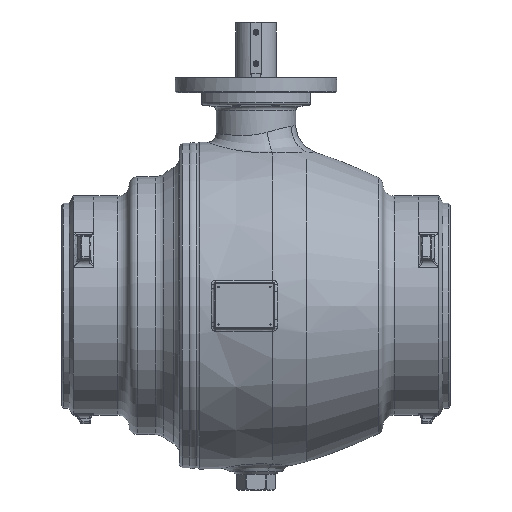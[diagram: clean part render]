
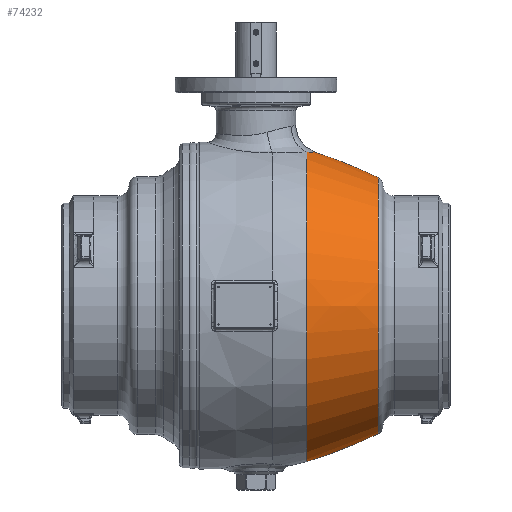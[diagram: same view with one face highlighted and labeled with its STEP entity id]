
A CAD part, front view. The second image highlights one B-rep face of the part: STEP entity #74232.
In plain terms, the highlighted free-form (B-spline) face has degree [3, 3] with [7, 4] control points.
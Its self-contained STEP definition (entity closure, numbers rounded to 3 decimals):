
#17498=CARTESIAN_POINT('',(176.658,-96.05,
531.703));
#17499=CARTESIAN_POINT('',(177.105,-95.395,
531.683));
#17500=CARTESIAN_POINT('',(177.989,-94.081,
531.643));
#17501=CARTESIAN_POINT('',(179.285,-92.099,
531.586));
#17502=CARTESIAN_POINT('',(180.552,-90.105,
531.531));
#17503=CARTESIAN_POINT('',(181.791,-88.101,
531.479));
#17504=CARTESIAN_POINT('',(183.,-86.085,
531.43));
#17505=CARTESIAN_POINT('',(184.18,-84.06,
531.383));
#17506=CARTESIAN_POINT('',(185.33,-82.024,
531.339));
#17507=CARTESIAN_POINT('',(186.452,-79.979,
531.297));
#17508=CARTESIAN_POINT('',(187.544,-77.924,
531.257));
#17509=CARTESIAN_POINT('',(188.606,-75.86,
531.219));
#17510=CARTESIAN_POINT('',(189.639,-73.787,
531.183));
#17511=CARTESIAN_POINT('',(190.643,-71.705,
531.15));
#17512=CARTESIAN_POINT('',(191.617,-69.615,
531.118));
#17513=CARTESIAN_POINT('',(192.562,-67.517,
531.087));
#17514=CARTESIAN_POINT('',(193.477,-65.411,
531.059));
#17515=CARTESIAN_POINT('',(194.362,-63.298,
531.032));
#17516=CARTESIAN_POINT('',(195.218,-61.177,
531.007));
#17517=CARTESIAN_POINT('',(196.044,-59.049,
530.983));
#17518=CARTESIAN_POINT('',(196.84,-56.915,
530.961));
#17519=CARTESIAN_POINT('',(197.607,-54.774,
530.94));
#17520=CARTESIAN_POINT('',(198.343,-52.627,
530.92));
#17521=CARTESIAN_POINT('',(199.05,-50.474,
530.901));
#17522=CARTESIAN_POINT('',(199.727,-48.315,
530.884));
#17523=CARTESIAN_POINT('',(200.374,-46.152,
530.868));
#17524=CARTESIAN_POINT('',(200.991,-43.983,
530.853));
#17525=CARTESIAN_POINT('',(201.578,-41.809,
530.839));
#17526=CARTESIAN_POINT('',(202.135,-39.632,
530.825));
#17527=CARTESIAN_POINT('',(202.662,-37.449,
530.813));
#17528=CARTESIAN_POINT('',(203.159,-35.263,
530.802));
#17529=CARTESIAN_POINT('',(203.626,-33.074,
530.792));
#17530=CARTESIAN_POINT('',(204.062,-30.881,
530.782));
#17531=CARTESIAN_POINT('',(204.469,-28.685,
530.773));
#17532=CARTESIAN_POINT('',(204.845,-26.487,
530.765));
#17533=CARTESIAN_POINT('',(205.192,-24.286,
530.758));
#17534=CARTESIAN_POINT('',(205.508,-22.083,
530.751));
#17535=CARTESIAN_POINT('',(205.794,-19.878,
530.745));
#17536=CARTESIAN_POINT('',(206.05,-17.671,
530.74));
#17537=CARTESIAN_POINT('',(206.276,-15.464,
530.735));
#17538=CARTESIAN_POINT('',(206.472,-13.255,
530.732));
#17539=CARTESIAN_POINT('',(206.637,-11.046,
530.728));
#17540=CARTESIAN_POINT('',(206.773,-8.836,
530.725));
#17541=CARTESIAN_POINT('',(206.878,-6.626,
530.723));
#17542=CARTESIAN_POINT('',(206.953,-4.417,
530.722));
#17543=CARTESIAN_POINT('',(206.998,-2.208,
530.721));
#17544=CARTESIAN_POINT('',(207.008,-0.736,
530.721));
#17545=CARTESIAN_POINT('',(207.008,0.,530.721));
#17547=CARTESIAN_POINT('',(-335.347,0.,-1133.116));
#17548=DIRECTION('',(0.,-1.,0.));
#17549=DIRECTION('',(0.433,0.,0.901));
#17550=AXIS2_PLACEMENT_3D('',#17547,#17548,#17549);
#17552=CARTESIAN_POINT('',(423.,0.,0.));
#17553=DIRECTION('',(1.,0.,0.));
#17554=DIRECTION('',(0.,0.,1.));
#17555=AXIS2_PLACEMENT_3D('',#17552,#17553,#17554);
#17557=CARTESIAN_POINT('',(-335.347,0.,
1133.116));
#17558=DIRECTION('',(0.,1.,0.));
#17559=DIRECTION('',(0.433,0.,-0.901));
#17560=AXIS2_PLACEMENT_3D('',#17557,#17558,#17559);
#17815=CARTESIAN_POINT('',(176.658,-96.05,
531.703));
#17817=CARTESIAN_POINT('',(176.658,0.,0.));
#17818=DIRECTION('',(1.,0.,0.));
#17819=DIRECTION('',(0.,-0.178,0.984));
#17820=AXIS2_PLACEMENT_3D('',#17817,#17818,#17819);
#42227=CARTESIAN_POINT('',(423.,0.,
-444.037));
#42228=CARTESIAN_POINT('',(176.658,0.,
-540.309));
#42229=VERTEX_POINT('',#42227);
#42230=VERTEX_POINT('',#42228);
#42231=CARTESIAN_POINT('',(423.,0.,444.037));
#42232=VERTEX_POINT('',#42231);
#42234=VERTEX_POINT('',#17815);
#42237=VERTEX_POINT('',#17545);
#74192=CARTESIAN_POINT('',(427.769,27.737,
-440.864));
#74193=CARTESIAN_POINT('',(345.093,30.252,
-480.846));
#74194=CARTESIAN_POINT('',(259.525,32.352,
-514.221));
#74195=CARTESIAN_POINT('',(171.593,34.023,
-540.781));
#74196=CARTESIAN_POINT('',(427.769,-243.57,
-457.933));
#74197=CARTESIAN_POINT('',(345.093,-265.66,
-499.463));
#74198=CARTESIAN_POINT('',(259.525,-284.099,
-534.13));
#74199=CARTESIAN_POINT('',(171.593,-298.773,
-561.719));
#74200=CARTESIAN_POINT('',(427.769,-441.735,
-271.843));
#74201=CARTESIAN_POINT('',(345.093,-481.797,
-296.497));
#74202=CARTESIAN_POINT('',(259.525,-515.238,
-317.077));
#74203=CARTESIAN_POINT('',(171.593,-541.851,
-333.454));
#74204=CARTESIAN_POINT('',(427.769,-441.735,
0.));
#74205=CARTESIAN_POINT('',(345.093,-481.797,
0.));
#74206=CARTESIAN_POINT('',(259.525,-515.238,
0.));
#74207=CARTESIAN_POINT('',(171.593,-541.851,
0.));
#74208=CARTESIAN_POINT('',(427.769,-441.735,
271.843));
#74209=CARTESIAN_POINT('',(345.093,-481.797,
296.497));
#74210=CARTESIAN_POINT('',(259.525,-515.238,
317.077));
#74211=CARTESIAN_POINT('',(171.593,-541.851,
333.454));
#74212=CARTESIAN_POINT('',(427.769,-243.57,
457.933));
#74213=CARTESIAN_POINT('',(345.093,-265.66,
499.463));
#74214=CARTESIAN_POINT('',(259.525,-284.099,
534.13));
#74215=CARTESIAN_POINT('',(171.593,-298.773,
561.719));
#74216=CARTESIAN_POINT('',(427.769,27.737,440.864));
#74217=CARTESIAN_POINT('',(345.093,30.252,480.846));
#74218=CARTESIAN_POINT('',(259.525,32.352,514.221));
#74219=CARTESIAN_POINT('',(171.593,34.023,540.781));
#74220=(BOUNDED_SURFACE()B_SPLINE_SURFACE(3,3,((#74192,#74193,#74194,#74195),(
#74196,#74197,#74198,#74199),(#74200,#74201,#74202,#74203),(#74204,#74205,
#74206,#74207),(#74208,#74209,#74210,#74211),(#74212,#74213,#74214,#74215),(
#74216,#74217,#74218,#74219)),.UNSPECIFIED.,.F.,.F.,.F.)B_SPLINE_SURFACE_WITH_KNOTS((4,3,4),(4,4),(0.,1.,2.),(0.,1.),.UNSPECIFIED.)GEOMETRIC_REPRESENTATION_ITEM()RATIONAL_B_SPLINE_SURFACE(((1.189,1.187,
1.187,1.189),(0.939,0.937,
0.937,0.939),(0.939,0.937,
0.937,0.939),(1.189,1.187,
1.187,1.189),(0.939,0.937,
0.937,0.939),(0.939,0.937,
0.937,0.939),(1.189,1.187,
1.187,1.189)))REPRESENTATION_ITEM('')SURFACE());
#74222=ORIENTED_EDGE('',*,*,#74221,.T.);
#74224=ORIENTED_EDGE('',*,*,#74223,.F.);
#74225=ORIENTED_EDGE('',*,*,#74174,.T.);
#74227=ORIENTED_EDGE('',*,*,#74226,.T.);
#74229=ORIENTED_EDGE('',*,*,#74228,.F.);
#74230=EDGE_LOOP('',(#74222,#74224,#74225,#74227,#74229));
#74231=FACE_OUTER_BOUND('',#74230,.F.);
#74232=ADVANCED_FACE('',(#74231),#74220,.T.);
#17546=B_SPLINE_CURVE_WITH_KNOTS('',3,(#17498,#17499,#17500,#17501,#17502,
#17503,#17504,#17505,#17506,#17507,#17508,#17509,#17510,#17511,#17512,#17513,
#17514,#17515,#17516,#17517,#17518,#17519,#17520,#17521,#17522,#17523,#17524,
#17525,#17526,#17527,#17528,#17529,#17530,#17531,#17532,#17533,#17534,#17535,
#17536,#17537,#17538,#17539,#17540,#17541,#17542,#17543,#17544,#17545),
.UNSPECIFIED.,.F.,.F.,(4,1,1,1,1,1,1,1,1,1,1,1,1,1,1,1,1,1,1,1,1,1,1,1,1,1,1,1,
1,1,1,1,1,1,1,1,1,1,1,1,1,1,1,1,1,4),(0.,0.022,0.044,
0.067,0.089,0.111,0.133,
0.156,0.178,0.2,0.222,0.244,
0.267,0.289,0.311,0.333,
0.356,0.378,0.4,0.422,0.444,
0.467,0.489,0.511,0.533,
0.556,0.578,0.6,0.622,0.644,
0.667,0.689,0.711,0.733,
0.756,0.778,0.8,0.822,0.844,
0.867,0.889,0.911,0.933,
0.956,0.978,1.),.UNSPECIFIED.);
#17551=CIRCLE('',#17550,1750.);
#17556=CIRCLE('',#17555,444.037);
#17561=CIRCLE('',#17560,1750.);
#17821=CIRCLE('',#17820,540.309);
#74174=EDGE_CURVE('',#42232,#42229,#17556,.T.);
#74221=EDGE_CURVE('',#42234,#42237,#17546,.T.);
#74223=EDGE_CURVE('',#42232,#42237,#17551,.T.);
#74226=EDGE_CURVE('',#42229,#42230,#17561,.T.);
#74228=EDGE_CURVE('',#42234,#42230,#17821,.T.);
